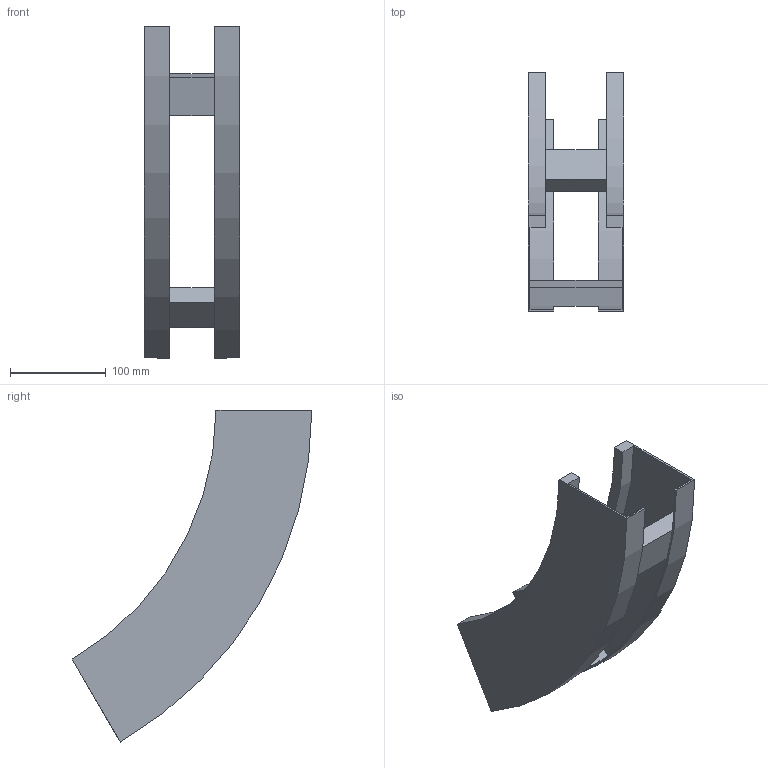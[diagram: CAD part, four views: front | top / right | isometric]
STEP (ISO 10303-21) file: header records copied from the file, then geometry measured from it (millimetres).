
FILE_DESCRIPTION (( 'STEP AP214' ), '1' );
FILE_NAME ('B2X40B3D100XX.step', '2025-03-20T10:12:43', ( '' ), ( '' ), 'SwSTEP 2.0', 'SolidWorks 2023', '' );
FILE_SCHEMA (( 'AUTOMOTIVE_DESIGN' ));
Length unit declared in the file: millimetre
Products named in the file (3): B2_LONGH.SALITA_60°_H100_R300; TRAVERSINO_100; B2X40B3D100XX
Assembly tree (4 placements, depth 2):
  B2X40B3D100XX
    B2_LONGH.SALITA_60°_H100_R300  x2
    TRAVERSINO_100  x2
Bounding box: 100 x 250 x 346.41 mm (x, y, z)
Volume: 466960.7 mm3; surface area: 240071.3 mm2
Topology: 4 solids, 4 shells, 32 faces, 72 edges, 48 vertices
Faces by surface type: plane 24, cylinder 8
Entity records: 552 total; most frequent: DIRECTION 90, CARTESIAN_POINT 83, ORIENTED_EDGE 72, EDGE_CURVE 36, AXIS2_PLACEMENT_3D 31, LINE 28, VECTOR 28, VERTEX_POINT 24
